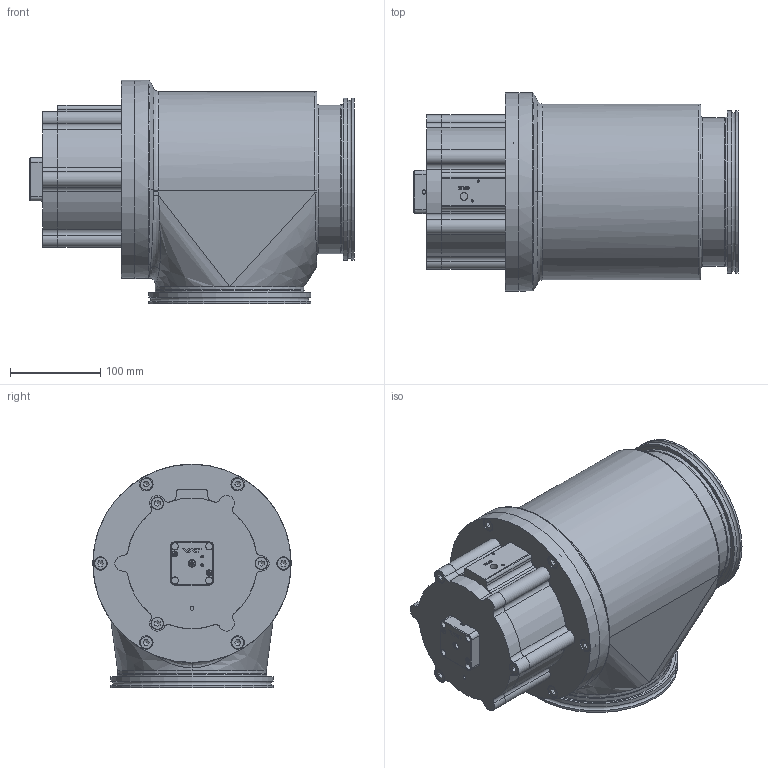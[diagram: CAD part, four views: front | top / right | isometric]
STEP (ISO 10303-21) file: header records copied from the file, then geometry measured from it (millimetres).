
FILE_DESCRIPTION(/* description */ (''),/* implementation_level */ '2;1');
FILE_NAME(/* name */ '1133223145_203.stp',/* time_stamp */ '2013-07-16T10:22:37+02:00',/* author */ (''),/* organization */ (''),/* preprocessor_version */ 'ST-DEVELOPER v11',/* originating_system */ 'SIEMENS PLM Software NX 7.5',/* authorisation */ '');
FILE_SCHEMA (('AP203_CONFIGURATION_CONTROLLED_3D_DESIGN_OF_MECHANICAL_PARTS_AND_ASSEMBLIES_MIM_LF'));
Length unit declared in the file: millimetre
Products named in the file (13): 233359; 236204_1.1; 500093_18172ID; n-6121-026.2; 546207_18309ID; 546196; 546253; 228777; 476060; 239983.3; 500278_MODEL; 546204_MODEL; 577341
Assembly tree (21 placements, depth 3):
  577341
    476060
    228777  x9
    546204_MODEL
      546207_18309ID
      n-6121-026.2
    546253
    500278_MODEL
      500093_18172ID
    546196
    239983.3
      236204_1.1  x2
      233359
Bounding box: 359.5 x 220 x 248 mm (x, y, z)
Volume: 2863183.4 mm3; surface area: 639854.6 mm2
Topology: 36 solids, 36 shells, 837 faces, 2030 edges, 1319 vertices
Faces by surface type: plane 409, cylinder 253, cone 85, bspline 50, torus 31, extrusion 8, sphere 1
Full cylindrical faces by diameter (mm): 2.5 x5, 3 x6, 3.85 x1, 4 x1, 4.2 x2, 5.6 x2, 6.2 x2, 6.66 x9, 6.7 x9, 6.8 x12, 7.4 x1, 8 x19, 8.4 x1, 8.566 x1, 9 x12, 13 x9, 14 x6, 15 x6, 21 x1, 23.011 x2, 23.3 x2, 29.4 x2, 30 x1, 39.5 x1, 40 x1, 44.4 x1, 50 x1, 135.125 x1, 136.29 x1, 136.4 x1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
Entity records: 23685 total; most frequent: CARTESIAN_POINT 6750, DIRECTION 3099, ORIENTED_EDGE 2916, EDGE_CURVE 1458, AXIS2_PLACEMENT_3D 1219, VERTEX_POINT 1052, EDGE_LOOP 954, ADVANCED_FACE 667
